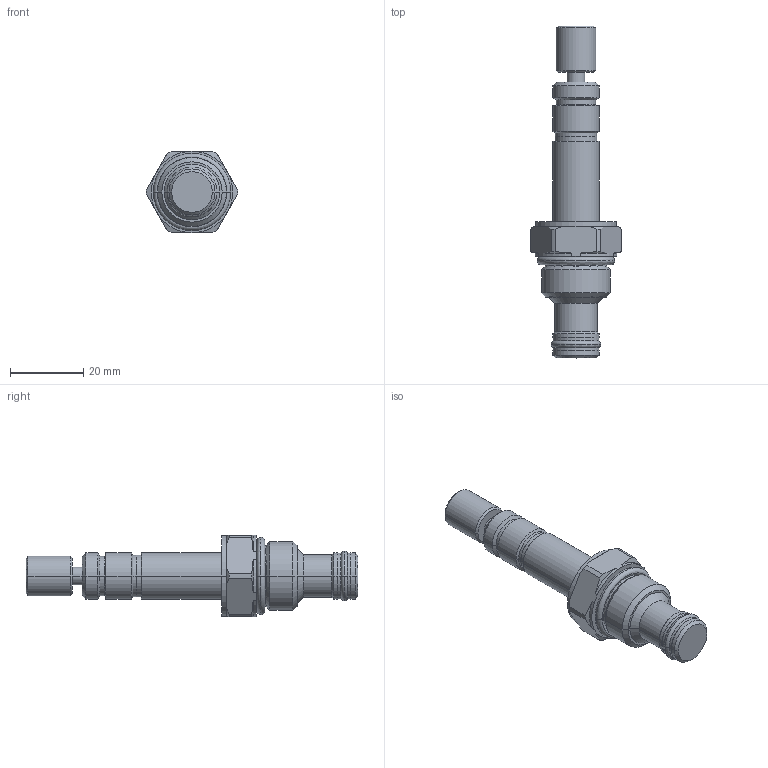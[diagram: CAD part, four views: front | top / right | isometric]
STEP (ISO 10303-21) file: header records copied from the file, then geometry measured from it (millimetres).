
FILE_DESCRIPTION((''),'2;1');
FILE_NAME('5009088_SW0001','2009-02-24T',('JCS'),(''),'PRO/ENGINEER BY PARAMETRIC TECHNOLOGY CORPORATION, 2008010','PRO/ENGINEER BY PARAMETRIC TECHNOLOGY CORPORATION, 2008010','');
FILE_SCHEMA(('CONFIG_CONTROL_DESIGN'));
Length unit declared in the file: inch
Products named in the file (1): 5009088_SW0001
Bounding box: 24.94 x 90.88 x 22.23 mm (x, y, z)
Volume: 14919.9 mm3; surface area: 5949 mm2
Topology: 3 solids, 3 shells, 150 faces, 331 edges, 196 vertices
Faces by surface type: cylinder 53, cone 48, plane 25, revolution 16, torus 8
Entity records: 4504 total; most frequent: CARTESIAN_POINT 1107, DIRECTION 742, ORIENTED_EDGE 662, EDGE_CURVE 331, AXIS2_PLACEMENT_3D 305, VERTEX_POINT 196, CIRCLE 171, EDGE_LOOP 165
